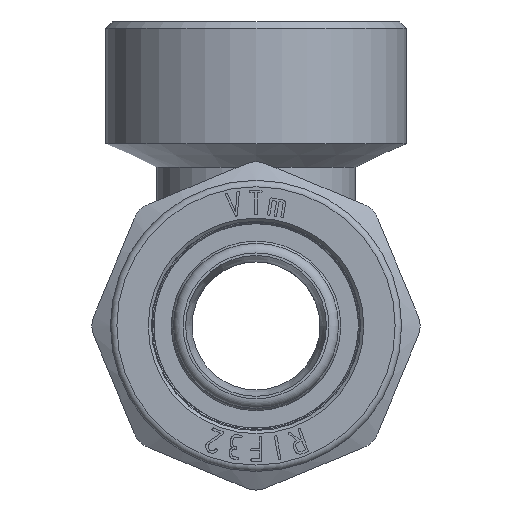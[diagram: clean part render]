
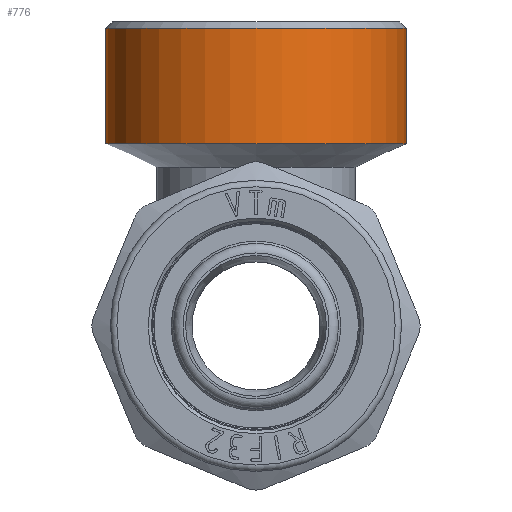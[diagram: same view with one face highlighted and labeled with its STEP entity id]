
A CAD part, front view. The second image highlights one B-rep face of the part: STEP entity #776.
In plain terms, the highlighted cylindrical face has radius 23.5 mm (diameter 47 mm), a full revolution.
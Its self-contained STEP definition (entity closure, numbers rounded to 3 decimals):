
#776=ADVANCED_FACE('',(#5948,#5950),#5952,.T.);
#5948=FACE_OUTER_BOUND('',#5949,.T.);
#5949=EDGE_LOOP('',(#11382));
#5950=FACE_OUTER_BOUND('',#5951,.T.);
#5951=EDGE_LOOP('',(#11383));
#5952=CYLINDRICAL_SURFACE('',#5953,23.5);
#5953=AXIS2_PLACEMENT_3D('',#5954,#5955,#5956);
#5954=CARTESIAN_POINT('',(0.,0.,28.5));
#5955=DIRECTION('',(0.,0.,1.));
#5956=DIRECTION('',(0.,1.,0.));
#11382=ORIENTED_EDGE('',*,*,#13509,.F.);
#11383=ORIENTED_EDGE('',*,*,#13474,.F.);
#13474=EDGE_CURVE('',#16846,#16846,#16847,.F.);
#13509=EDGE_CURVE('',#16900,#16900,#16901,.T.);
#16846=VERTEX_POINT('',#28643);
#16847=CIRCLE('',#28644,23.5);
#16900=VERTEX_POINT('',#28770);
#16901=CIRCLE('',#28771,23.5);
#28643=CARTESIAN_POINT('',(0.,23.5,28.5));
#28644=AXIS2_PLACEMENT_3D('',#28645,#28646,#28647);
#28645=CARTESIAN_POINT('',(0.,0.,28.5));
#28646=DIRECTION('',(0.,0.,1.));
#28647=DIRECTION('',(0.,1.,0.));
#28770=CARTESIAN_POINT('',(0.,23.5,46.5));
#28771=AXIS2_PLACEMENT_3D('',#28772,#28773,#28774);
#28772=CARTESIAN_POINT('',(0.,0.,46.5));
#28773=DIRECTION('',(0.,0.,1.));
#28774=DIRECTION('',(0.,1.,0.));
